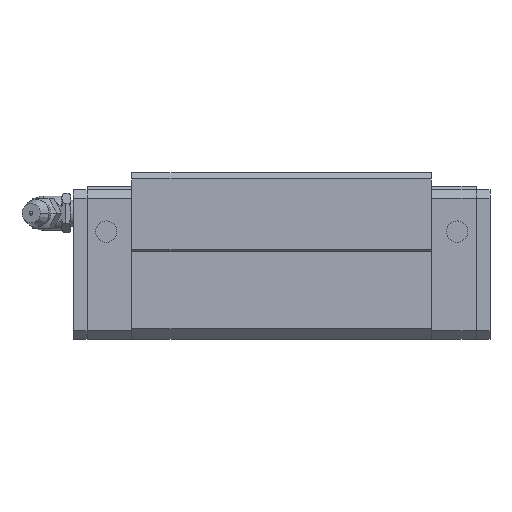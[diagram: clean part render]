
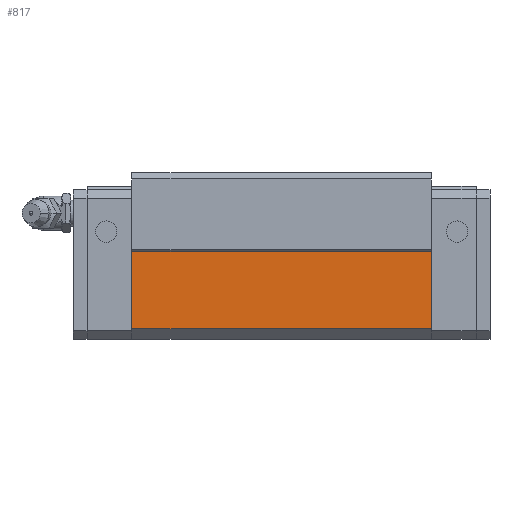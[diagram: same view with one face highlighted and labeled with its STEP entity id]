
A CAD part, front view. The second image highlights one B-rep face of the part: STEP entity #817.
In plain terms, the highlighted planar face has unit normal (0, -1, 0).
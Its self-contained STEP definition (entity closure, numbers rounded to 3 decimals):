
#756=CARTESIAN_POINT('POINT46',(83.7,-29.5,
   2.5));
#757=VERTEX_POINT('VERTEX46',#756);
#764=CARTESIAN_POINT('POINT47',(13.7,-29.5,
   2.5));
#765=VERTEX_POINT('VERTEX47',#764);
#766=CARTESIAN_POINT('POS77',(13.7,-29.5,
   2.5));
#767=DIRECTION('DIR116',(1.,0.,0.));
#768=VECTOR('VEC38',#767,1.);
#769=LINE('STRAIGHT38',#766,#768);
#770=EDGE_CURVE('EDGE76',#765,#757,#769,.T.);
#787=CARTESIAN_POINT('POINT48',(83.7,-29.5,
   20.5));
#788=VERTEX_POINT('VERTEX48',#787);
#789=CARTESIAN_POINT('POS80',(83.7,-29.5,
   2.5));
#790=DIRECTION('DIR120',(0.,0.,1.));
#791=VECTOR('VEC40',#790,1.);
#792=LINE('STRAIGHT40',#789,#791);
#793=EDGE_CURVE('EDGE78',#757,#788,#792,.T.);
#794=ORIENTED_EDGE('COEDGE143',*,*,#793,.T.);
#795=CARTESIAN_POINT('POINT49',(13.7,-29.5,
   20.5));
#796=VERTEX_POINT('VERTEX49',#795);
#797=CARTESIAN_POINT('POS81',(13.7,-29.5,
   20.5));
#798=DIRECTION('DIR121',(1.,0.,0.));
#799=VECTOR('VEC41',#798,1.);
#800=LINE('STRAIGHT41',#797,#799);
#801=EDGE_CURVE('EDGE79',#796,#788,#800,.T.);
#802=ORIENTED_EDGE('COEDGE144',*,*,#801,.F.);
#803=CARTESIAN_POINT('POS82',(13.7,-29.5,
   2.5));
#804=DIRECTION('DIR122',(0.,0.,1.));
#805=VECTOR('VEC42',#804,1.);
#806=LINE('STRAIGHT42',#803,#805);
#807=EDGE_CURVE('EDGE80',#765,#796,#806,.T.);
#808=ORIENTED_EDGE('COEDGE145',*,*,#807,.F.);
#809=ORIENTED_EDGE('COEDGE146',*,*,#770,.T.);
#810=EDGE_LOOP('NONE',(#794,#802,#808,#809));
#811=FACE_BOUND('LOOP1',#810,.T.);
#812=CARTESIAN_POINT('POS83',(13.7,-29.5,
   2.5));
#813=DIRECTION('DIR123',(0.,-1.,0.));
#814=DIRECTION('DIR124',(1.,0.,0.));
#815=AXIS2_PLACEMENT_3D('AXIS41',#812,#813,#814);
#816=PLANE('PLANE6',#815);
#817=ADVANCED_FACE('FACE38',(#811),#816,.T.);
